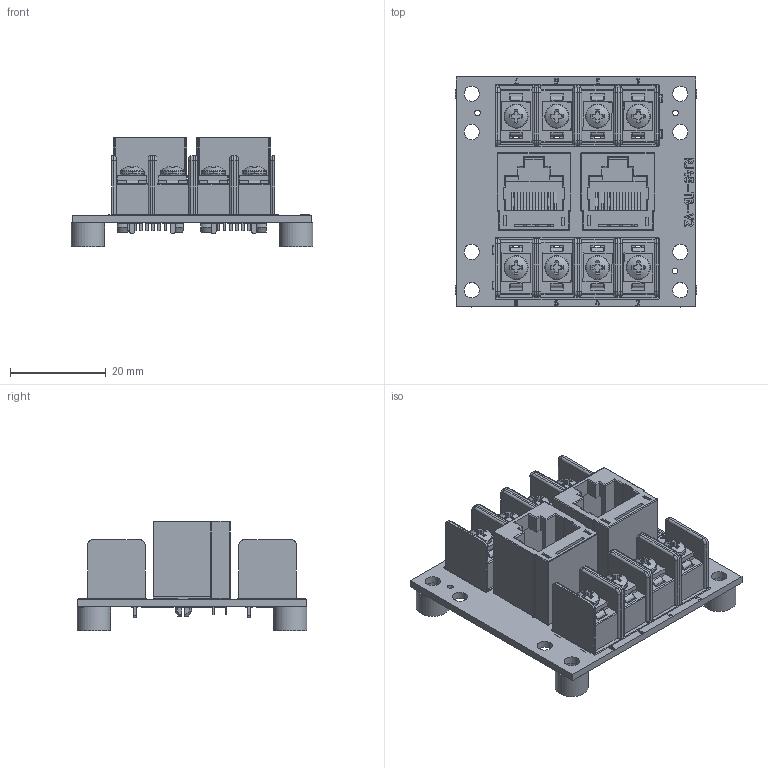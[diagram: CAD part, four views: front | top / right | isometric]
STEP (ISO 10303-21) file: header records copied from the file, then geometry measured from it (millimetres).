
FILE_DESCRIPTION(('FreeCAD Model'),'2;1');
FILE_NAME('Open CASCADE Shape Model','2025-01-25T22:51:40',(''),(''), 'Open CASCADE STEP processor 7.6','FreeCAD','Unknown');
FILE_SCHEMA(('AUTOMOTIVE_DESIGN { 1 0 10303 214 1 1 1 1 }'));
Length unit declared in the file: millimetre
Products named in the file (38): rj45-terminal; Local_CS_4114; Board_Geoms_4114; Pcb_4114; PCB_Sketch_4114; botSilks_d179; topSilks_dcad; Step_Models_4114; Top_4114; TB2_User_Library-KF8500-3P_null; K8500_1S001; K8500_Midlle_Block002; K8500_Wall005; K8500_Wall006; K8500_Pad002; K8500_Washer002; M3x6mm_92005A068; K8500_1S002; K8500_Midlle_Block003; K8500_Wall007; K8500_Wall008; K8500_Pad003; K8500_Washer003; M3x6mm_92005A069; gge391_615008138021_null; 615008138221_Housing; 615008138021_Pin_short; 615008138021_Pin_long; 615008138021_Pin_long001; 615008138021_Pin_short001; 615008138021_Pin_long002; 615008138021_Pin_short002; 615008138021_Pin_long003; 615008138021_Pin_short003; 615008138221_Houssing2; Step_Virtual_Models_4114; BotV_4114; ${REFERENCE}_Body_null
Assembly tree (44 placements, depth 6):
  rj45-terminal
    Local_CS_4114
    Board_Geoms_4114
      Pcb_4114
      PCB_Sketch_4114
      botSilks_d179
      topSilks_dcad
    Step_Models_4114
      Top_4114
        TB2_User_Library-KF8500-3P_null  x4
          K8500_1S001
            K8500_Midlle_Block002
            K8500_Wall005
            K8500_Wall006
            K8500_Pad002
            K8500_Washer002
            M3x6mm_92005A068
          K8500_1S002
            K8500_Midlle_Block003
            K8500_Wall007
            K8500_Wall008
            K8500_Pad003
            K8500_Washer003
            M3x6mm_92005A069
        gge391_615008138021_null  x2
          615008138221_Housing
          615008138021_Pin_short
          615008138021_Pin_long
          615008138021_Pin_long001
          615008138021_Pin_short001
          615008138021_Pin_long002
          615008138021_Pin_short002
          615008138021_Pin_long003
          615008138021_Pin_short003
          615008138221_Houssing2
    Step_Virtual_Models_4114
      BotV_4114
        ${REFERENCE}_Body_null  x4
Bounding box: 50.5 x 48 x 22.86 mm (x, y, z)
Volume: 14666.9 mm3; surface area: 26510.5 mm2
Topology: 73 solids, 177 shells, 2711 faces, 14450 edges, 12011 vertices
Faces by surface type: plane 1638, cylinder 877, bspline 100, cone 72, sphere 8, torus 8, revolution 8
Full cylindrical faces by diameter (mm): 0.8 x16, 1.152 x3, 1.7 x8, 3.2 x16, 7 x4
Entity records: 96002 total; most frequent: CARTESIAN_POINT 24338, ORIENTED_EDGE 12695, DIRECTION 12343, EDGE_CURVE 10030, LINE 9273, VECTOR 9273, VERTEX_POINT 9111, AXIS2_PLACEMENT_3D 1533
